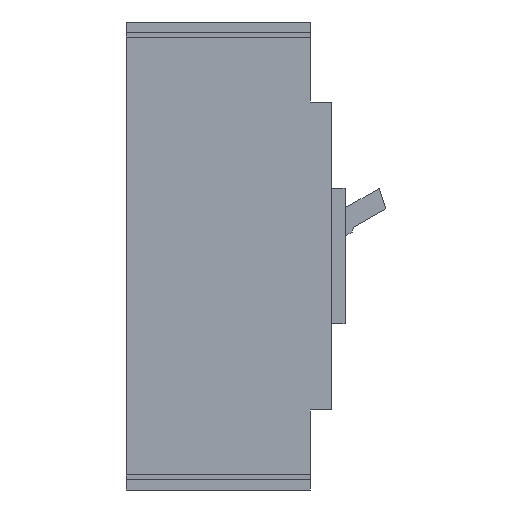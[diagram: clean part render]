
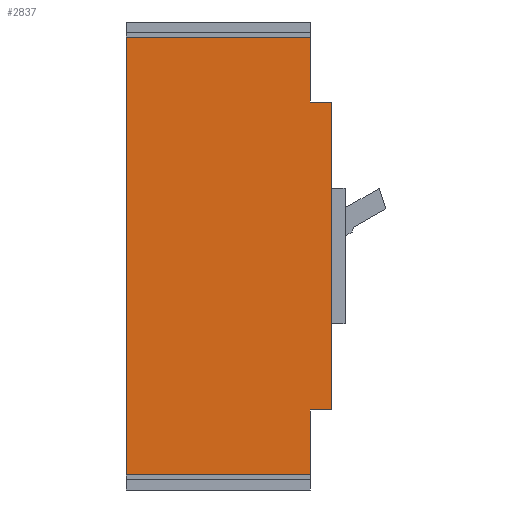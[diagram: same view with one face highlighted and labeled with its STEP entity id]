
A CAD part, left-side view. The second image highlights one B-rep face of the part: STEP entity #2837.
In plain terms, the highlighted planar face has unit normal (-1, 0, 0).
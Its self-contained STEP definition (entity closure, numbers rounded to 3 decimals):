
#2=DIRECTION('',(0.,-1.,0.));
#3=VECTOR('',#2,61.);
#4=CARTESIAN_POINT('',(-15.,30.5,72.5));
#5=LINE('',#4,#3);
#6=DIRECTION('',(0.,0.,-1.));
#7=VECTOR('',#6,21.5);
#8=CARTESIAN_POINT('',(-15.,-30.5,72.5));
#9=LINE('',#8,#7);
#10=DIRECTION('',(0.,-1.,0.));
#11=VECTOR('',#10,7.);
#12=CARTESIAN_POINT('',(-15.,-30.5,51.));
#13=LINE('',#12,#11);
#14=DIRECTION('',(0.,1.,0.));
#15=VECTOR('',#14,7.);
#16=CARTESIAN_POINT('',(-15.,-37.5,-51.));
#17=LINE('',#16,#15);
#18=DIRECTION('',(0.,0.,-1.));
#19=VECTOR('',#18,21.5);
#20=CARTESIAN_POINT('',(-15.,-30.5,-51.));
#21=LINE('',#20,#19);
#22=DIRECTION('',(0.,-1.,0.));
#23=VECTOR('',#22,61.);
#24=CARTESIAN_POINT('',(-15.,30.5,-72.5));
#25=LINE('',#24,#23);
#26=DIRECTION('',(0.,0.,1.));
#27=VECTOR('',#26,145.);
#28=CARTESIAN_POINT('',(-15.,30.5,-72.5));
#29=LINE('',#28,#27);
#482=DIRECTION('',(0.,0.,1.));
#483=VECTOR('',#482,102.);
#484=CARTESIAN_POINT('',(-15.,-37.5,-51.));
#485=LINE('',#484,#483);
#2118=CARTESIAN_POINT('',(-15.,-37.5,-51.));
#2119=CARTESIAN_POINT('',(-15.,-30.5,-51.));
#2120=VERTEX_POINT('',#2118);
#2121=VERTEX_POINT('',#2119);
#2266=CARTESIAN_POINT('',(-15.,-30.5,-72.5));
#2267=VERTEX_POINT('',#2266);
#2310=CARTESIAN_POINT('',(-15.,-30.5,51.));
#2311=CARTESIAN_POINT('',(-15.,-37.5,51.));
#2312=VERTEX_POINT('',#2310);
#2313=VERTEX_POINT('',#2311);
#2326=CARTESIAN_POINT('',(-15.,30.5,-72.5));
#2327=VERTEX_POINT('',#2326);
#2798=CARTESIAN_POINT('',(-15.,30.5,72.5));
#2799=CARTESIAN_POINT('',(-15.,-30.5,72.5));
#2800=VERTEX_POINT('',#2798);
#2801=VERTEX_POINT('',#2799);
#2814=CARTESIAN_POINT('',(-15.,0.,0.));
#2815=DIRECTION('',(1.,0.,0.));
#2816=DIRECTION('',(0.,-1.,0.));
#2817=AXIS2_PLACEMENT_3D('',#2814,#2815,#2816);
#2818=PLANE('',#2817);
#2820=ORIENTED_EDGE('',*,*,#2819,.T.);
#2822=ORIENTED_EDGE('',*,*,#2821,.T.);
#2824=ORIENTED_EDGE('',*,*,#2823,.T.);
#2826=ORIENTED_EDGE('',*,*,#2825,.F.);
#2828=ORIENTED_EDGE('',*,*,#2827,.T.);
#2830=ORIENTED_EDGE('',*,*,#2829,.T.);
#2832=ORIENTED_EDGE('',*,*,#2831,.F.);
#2834=ORIENTED_EDGE('',*,*,#2833,.T.);
#2835=EDGE_LOOP('',(#2820,#2822,#2824,#2826,#2828,#2830,#2832,#2834));
#2836=FACE_OUTER_BOUND('',#2835,.F.);
#2819=EDGE_CURVE('',#2800,#2801,#5,.T.);
#2821=EDGE_CURVE('',#2801,#2312,#9,.T.);
#2823=EDGE_CURVE('',#2312,#2313,#13,.T.);
#2825=EDGE_CURVE('',#2120,#2313,#485,.T.);
#2827=EDGE_CURVE('',#2120,#2121,#17,.T.);
#2829=EDGE_CURVE('',#2121,#2267,#21,.T.);
#2831=EDGE_CURVE('',#2327,#2267,#25,.T.);
#2833=EDGE_CURVE('',#2327,#2800,#29,.T.);
#2837=ADVANCED_FACE('',(#2836),#2818,.F.);
